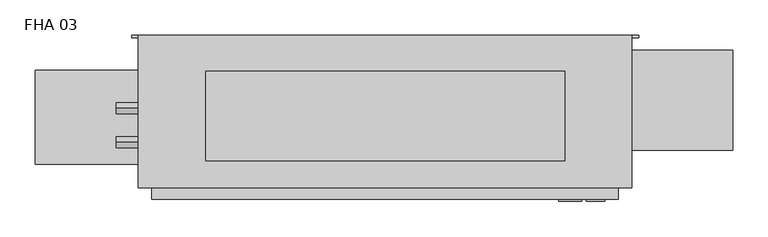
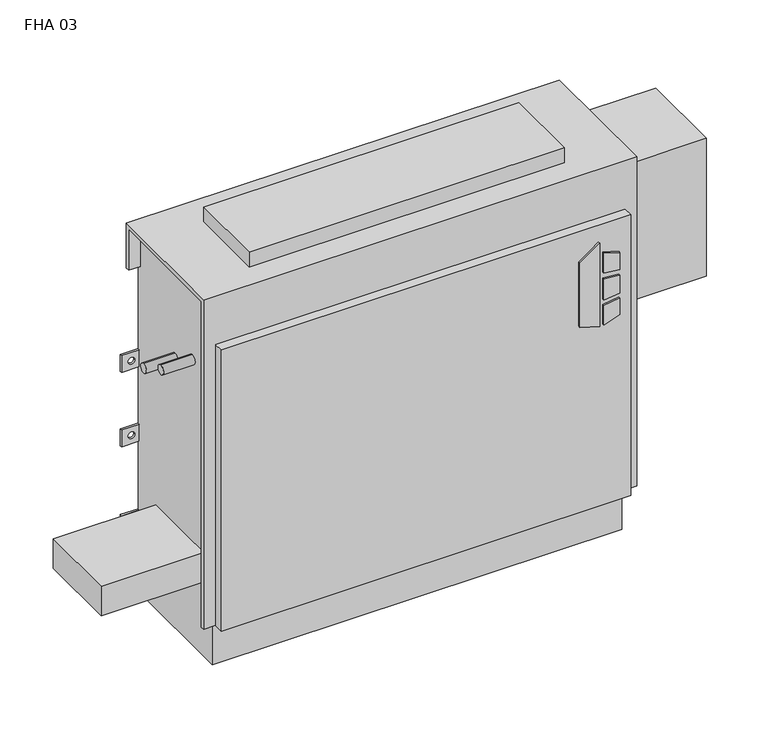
"""IFC4 building model written with IfcOpenShell, lengths in millimetres: proxy geometry, Vertical_Fan_Coil_Unit_-_FHA_-_IEC_-_2-Pipe_TS-FR_LH_2022 : FHA 03."""

from ifc_helpers import new_model, si_unit, point, frame, frame_2d, origin, place, context, project, spatial, polyline, circle_curve, trimmed, segment, composite_curve, outline, extrude, source, transform, mapped, element, save
from ifc_brep_helpers import plane_surface, revolved_surface, advanced_brep


def fha_03_dce14b14(model_context):
    return source(origin(), model_context, "Body", "SolidModel", [
        extrude(outline(polyline([(391.6086829, 398.5368862), (381.6606126, 430.7102728), (523.831537, 430.7102728), (500.8095309, 398.5368862), (391.6086829, 398.5368862)])), frame((0.0, 9.525, 0.0), z_axis=(0.0, 1.0, 0.0), x_axis=(0.0, 0.0, 1.0)), (0.0, 0.0, 1.0), 3.175),
        extrude(outline(polyline([(470.6079683, 437.4686058), (467.4055757, 463.55), (496.6344168, 463.55), (504.6988318, 437.4686058), (470.6079683, 437.4686058)])), frame((0.0, 9.525, 0.0), z_axis=(0.0, 1.0, 0.0), x_axis=(0.0, 0.0, 1.0)), (0.0, 0.0, 1.0), 3.175),
        extrude(outline(polyline([(418.7444414, 463.55), (415.0789404, 437.4686058), (381.6606126, 437.4686058), (390.2948498, 463.55), (418.7444414, 463.55)])), frame((0.0, 9.525, 0.0), z_axis=(0.0, 1.0, 0.0), x_axis=(0.0, 0.0, 1.0)), (0.0, 0.0, 1.0), 3.175),
        extrude(outline(polyline([(458.0596028, 463.55), (460.3414292, 437.4686058), (424.4038806, 437.4686058), (427.1451456, 463.55), (458.0596028, 463.55)])), frame((0.0, 9.525, 0.0), z_axis=(0.0, 1.0, 0.0), x_axis=(0.0, 0.0, 1.0)), (0.0, 0.0, 1.0), 3.175),
        extrude(outline(composite_curve([segment(trimmed(circle_curve(frame_2d((-241.3, 128.5875)), 9.525), [point((-250.825, 128.5875))], [point((-231.775, 128.5875))], False, "CARTESIAN"), True, "CONTINUOUS"), segment(trimmed(circle_curve(frame_2d((-241.3, 128.5875)), 9.525), [point((-231.775, 128.5875))], [point((-250.825, 128.5875))], False, "CARTESIAN"), True, "CONTINUOUS")], self_intersect=False)), frame((0.0, 0.0, 101.6), z_axis=(0.0, 0.0, 1.0), x_axis=(1.0, 0.0, 0.0)), (0.0, 0.0, 1.0), 25.4),
        extrude(outline(polyline([(-342.9, 61.9125), (-342.9, 195.2625), (-177.8, 195.2625), (-177.8, 61.9125), (-342.9, 61.9125)])), frame((0.0, 0.0, 127.0), z_axis=(0.0, 0.0, 1.0), x_axis=(1.0, 0.0, 0.0)), (0.0, 0.0, 1.0), 50.8),
        extrude(outline(polyline([(406.4, 193.675), (406.4, 66.675), (-101.6, 66.675), (-101.6, 193.675), (406.4, 193.675)])), frame((0.0, 0.0, 635.0), z_axis=(0.0, 0.0, 1.0), x_axis=(1.0, 0.0, 0.0)), (0.0, 0.0, 1.0), 25.4),
        extrude(outline(composite_curve([segment(trimmed(circle_curve(frame_2d((93.1926, 488.0102)), 7.9375), [point((93.1926, 495.9477))], [point((93.1926, 480.0727))], False, "CARTESIAN"), True, "CONTINUOUS"), segment(trimmed(circle_curve(frame_2d((93.1926, 488.0102)), 7.9375), [point((93.1926, 480.0727))], [point((93.1926, 495.9477))], False, "CARTESIAN"), True, "CONTINUOUS")], self_intersect=False)), frame((-228.6, 0.0, 0.0), z_axis=(1.0, 0.0, 0.0), x_axis=(0.0, 1.0, 0.0)), (0.0, 0.0, 1.0), 50.8),
        extrude(outline(composite_curve([segment(trimmed(circle_curve(frame_2d((141.3002, 461.3402)), 7.9375), [point((141.3002, 469.2777))], [point((141.3002, 453.4027))], False, "CARTESIAN"), True, "CONTINUOUS"), segment(trimmed(circle_curve(frame_2d((141.3002, 461.3402)), 7.9375), [point((141.3002, 453.4027))], [point((141.3002, 469.2777))], False, "CARTESIAN"), True, "CONTINUOUS")], self_intersect=False)), frame((-228.6, 0.0, 0.0), z_axis=(1.0, 0.0, 0.0), x_axis=(0.0, 1.0, 0.0)), (0.0, 0.0, 1.0), 50.8),
        extrude(outline(polyline([(644.525, 223.266), (644.525, 81.534), (482.6, 81.534), (482.6, 223.266), (644.525, 223.266)])), frame((0.0, 0.0, 349.25), z_axis=(0.0, 0.0, 1.0), x_axis=(1.0, 0.0, 0.0)), (0.0, 0.0, 1.0), 234.95),
        advanced_brep(
        [(501.65, 244.475, 635.0), (-196.85, 244.475, 635.0), (-196.85, 28.575, 635.0), (501.65, 28.575, 635.0), (-177.8, 244.475, 0.0), (482.6, 244.475, 0.0), (482.6, 38.1, 0.0), (-177.8, 38.1, 0.0), (501.65, 244.475, 558.8), (482.6, 244.475, 558.8), (482.6, 244.475, 414.3375), (511.175, 244.475, 414.3375), (511.175, 244.475, 385.7625), (482.6, 244.475, 385.7625), (482.6, 244.475, 287.3375), (511.175, 244.475, 287.3375), (511.175, 244.475, 258.7625), (482.6, 244.475, 258.7625), (482.6, 244.475, 141.2875), (511.175, 244.475, 141.2875), (511.175, 244.475, 112.7125), (482.6, 244.475, 112.7125), (-177.8, 244.475, 112.7125), (-206.375, 244.475, 112.7125), (-206.375, 244.475, 141.2875), (-177.8, 244.475, 141.2875), (-177.8, 244.475, 258.7625), (-206.375, 244.475, 258.7625), (-206.375, 244.475, 287.3375), (-177.8, 244.475, 287.3375), (-177.8, 244.475, 385.7625), (-206.375, 244.475, 385.7625), (-206.375, 244.475, 414.3375), (-177.8, 244.475, 414.3375), (-177.8, 244.475, 558.8), (-196.85, 244.475, 558.8), (500.8626, 244.475, 127.0), (489.7374, 244.475, 127.0), (-184.9374, 244.475, 127.0), (-196.0626, 244.475, 127.0), (500.8626, 244.475, 273.05), (489.7374, 244.475, 273.05), (-184.9374, 244.475, 273.05), (-196.0626, 244.475, 273.05), (500.8626, 244.475, 400.05), (489.7374, 244.475, 400.05), (-184.9374, 244.475, 400.05), (-196.0626, 244.475, 400.05), (-196.85, 238.125, 558.8), (-196.85, 238.125, 628.65), (-196.85, 34.925, 628.65), (-196.85, 34.925, 73.025), (-196.85, 28.575, 73.025), (482.6, 12.7, 552.45), (-177.8, 12.7, 552.45), (-177.8, 12.7, 73.025), (482.6, 12.7, 73.025), (501.65, 28.575, 73.025), (501.65, 34.925, 73.025), (501.65, 34.925, 628.65), (501.65, 238.125, 628.65), (501.65, 238.125, 558.8), (-177.8, 28.575, 73.025), (-177.8, 28.575, 552.45), (482.6, 28.575, 552.45), (482.6, 28.575, 73.025), (-177.8, 34.925, 73.025), (-177.8, 38.1, 73.025), (482.6, 38.1, 73.025), (482.6, 34.925, 73.025), (482.6, 241.3, 112.7125), (482.6, 241.3, 141.2875), (482.6, 241.3, 258.7625), (482.6, 241.3, 287.3375), (482.6, 241.3, 385.7625), (482.6, 241.3, 414.3375), (482.6, 238.125, 558.8), (482.6, 238.125, 628.65), (482.6, 34.925, 628.65), (-177.8, 34.925, 628.65), (-177.8, 238.125, 628.65), (-177.8, 238.125, 558.8), (-177.8, 241.3, 414.3375), (-177.8, 241.3, 385.7625), (-177.8, 241.3, 287.3375), (-177.8, 241.3, 258.7625), (-177.8, 241.3, 141.2875), (-177.8, 241.3, 112.7125), (511.175, 241.3, 112.7125), (511.175, 241.3, 141.2875), (489.7374, 241.3, 127.0), (500.8626, 241.3, 127.0), (511.175, 241.3, 258.7625), (511.175, 241.3, 287.3375), (489.7374, 241.3, 273.05), (500.8626, 241.3, 273.05), (511.175, 241.3, 385.7625), (511.175, 241.3, 414.3375), (489.7374, 241.3, 400.05), (500.8626, 241.3, 400.05), (-206.375, 241.3, 141.2875), (-206.375, 241.3, 112.7125), (-196.0626, 241.3, 127.0), (-184.9374, 241.3, 127.0), (-206.375, 241.3, 287.3375), (-206.375, 241.3, 258.7625), (-196.0626, 241.3, 273.05), (-184.9374, 241.3, 273.05), (-206.375, 241.3, 414.3375), (-206.375, 241.3, 385.7625), (-196.0626, 241.3, 400.05), (-184.9374, 241.3, 400.05)],
        [
            (0, 1),
            (1, 2),
            (2, 3),
            (3, 0),
            (4, 5),
            (5, 6),
            (6, 7),
            (7, 4),
            (0, 8),
            (8, 9),
            (9, 10),
            (10, 11),
            (11, 12),
            (12, 13),
            (13, 14),
            (14, 15),
            (15, 16),
            (16, 17),
            (17, 18),
            (18, 19),
            (19, 20),
            (20, 21),
            (21, 5),
            (4, 22),
            (22, 23),
            (23, 24),
            (24, 25),
            (25, 26),
            (26, 27),
            (27, 28),
            (28, 29),
            (29, 30),
            (30, 31),
            (31, 32),
            (32, 33),
            (33, 34),
            (34, 35),
            (35, 1),
            (36, 37, circle_curve(frame((495.3, 244.475, 127.0), z_axis=(0.0, -1.0, 0.0), x_axis=(-1.0, 0.0, 0.0)), 5.5626)),
            (37, 36, circle_curve(frame((495.3, 244.475, 127.0), z_axis=(0.0, -1.0, 0.0), x_axis=(-1.0, 0.0, 0.0)), 5.5626)),
            (38, 39, circle_curve(frame((-190.5, 244.475, 127.0), z_axis=(0.0, -1.0, 0.0), x_axis=(-1.0, 0.0, 0.0)), 5.5626)),
            (39, 38, circle_curve(frame((-190.5, 244.475, 127.0), z_axis=(0.0, -1.0, 0.0), x_axis=(-1.0, 0.0, 0.0)), 5.5626)),
            (40, 41, circle_curve(frame((495.3, 244.475, 273.05), z_axis=(0.0, -1.0, 0.0), x_axis=(-1.0, 0.0, 0.0)), 5.5626)),
            (41, 40, circle_curve(frame((495.3, 244.475, 273.05), z_axis=(0.0, -1.0, 0.0), x_axis=(-1.0, 0.0, 0.0)), 5.5626)),
            (42, 43, circle_curve(frame((-190.5, 244.475, 273.05), z_axis=(0.0, -1.0, 0.0), x_axis=(-1.0, 0.0, 0.0)), 5.5626)),
            (43, 42, circle_curve(frame((-190.5, 244.475, 273.05), z_axis=(0.0, -1.0, 0.0), x_axis=(-1.0, 0.0, 0.0)), 5.5626)),
            (44, 45, circle_curve(frame((495.3, 244.475, 400.05), z_axis=(0.0, -1.0, 0.0), x_axis=(-1.0, 0.0, 0.0)), 5.5626)),
            (45, 44, circle_curve(frame((495.3, 244.475, 400.05), z_axis=(0.0, -1.0, 0.0), x_axis=(-1.0, 0.0, 0.0)), 5.5626)),
            (46, 47, circle_curve(frame((-190.5, 244.475, 400.05), z_axis=(0.0, -1.0, 0.0), x_axis=(-1.0, 0.0, 0.0)), 5.5626)),
            (47, 46, circle_curve(frame((-190.5, 244.475, 400.05), z_axis=(0.0, -1.0, 0.0), x_axis=(-1.0, 0.0, 0.0)), 5.5626)),
            (35, 48),
            (48, 49),
            (49, 50),
            (50, 51),
            (51, 52),
            (52, 2),
            (53, 54),
            (54, 55),
            (55, 56),
            (56, 53),
            (3, 57),
            (57, 58),
            (58, 59),
            (59, 60),
            (60, 61),
            (61, 8),
            (52, 62),
            (62, 63),
            (63, 64),
            (64, 65),
            (65, 57),
            (53, 64),
            (63, 54),
            (55, 62),
            (51, 66),
            (66, 67),
            (67, 68),
            (68, 69),
            (69, 58),
            (65, 56),
            (6, 68),
            (67, 7),
            (21, 70),
            (70, 71),
            (71, 18),
            (17, 72),
            (72, 73),
            (73, 14),
            (13, 74),
            (74, 75),
            (75, 10),
            (9, 76),
            (76, 77),
            (77, 78),
            (78, 69),
            (66, 79),
            (79, 80),
            (80, 81),
            (81, 34),
            (33, 82),
            (82, 83),
            (83, 30),
            (29, 84),
            (84, 85),
            (85, 26),
            (25, 86),
            (86, 87),
            (87, 22),
            (76, 61),
            (60, 77),
            (78, 59),
            (50, 79),
            (81, 48),
            (80, 49),
            (70, 88),
            (88, 89),
            (89, 71),
            (90, 91, circle_curve(frame((495.3, 241.3, 127.0), z_axis=(0.0, 1.0, 0.0), x_axis=(-1.0, 0.0, 0.0)), 5.5626)),
            (91, 90, circle_curve(frame((495.3, 241.3, 127.0), z_axis=(0.0, 1.0, 0.0), x_axis=(-1.0, 0.0, 0.0)), 5.5626)),
            (92, 93),
            (93, 73),
            (72, 92),
            (94, 95, circle_curve(frame((495.3, 241.3, 273.05), z_axis=(0.0, 1.0, 0.0), x_axis=(-1.0, 0.0, 0.0)), 5.5626)),
            (95, 94, circle_curve(frame((495.3, 241.3, 273.05), z_axis=(0.0, 1.0, 0.0), x_axis=(-1.0, 0.0, 0.0)), 5.5626)),
            (96, 97),
            (97, 75),
            (74, 96),
            (98, 99, circle_curve(frame((495.3, 241.3, 400.05), z_axis=(0.0, 1.0, 0.0), x_axis=(-1.0, 0.0, 0.0)), 5.5626)),
            (99, 98, circle_curve(frame((495.3, 241.3, 400.05), z_axis=(0.0, 1.0, 0.0), x_axis=(-1.0, 0.0, 0.0)), 5.5626)),
            (100, 101),
            (101, 87),
            (86, 100),
            (102, 103, circle_curve(frame((-190.5, 241.3, 127.0), z_axis=(0.0, 1.0, 0.0), x_axis=(-1.0, 0.0, 0.0)), 5.5626)),
            (103, 102, circle_curve(frame((-190.5, 241.3, 127.0), z_axis=(0.0, 1.0, 0.0), x_axis=(-1.0, 0.0, 0.0)), 5.5626)),
            (84, 104),
            (104, 105),
            (105, 85),
            (106, 107, circle_curve(frame((-190.5, 241.3, 273.05), z_axis=(0.0, 1.0, 0.0), x_axis=(-1.0, 0.0, 0.0)), 5.5626)),
            (107, 106, circle_curve(frame((-190.5, 241.3, 273.05), z_axis=(0.0, 1.0, 0.0), x_axis=(-1.0, 0.0, 0.0)), 5.5626)),
            (108, 109),
            (109, 83),
            (82, 108),
            (110, 111, circle_curve(frame((-190.5, 241.3, 400.05), z_axis=(0.0, 1.0, 0.0), x_axis=(-1.0, 0.0, 0.0)), 5.5626)),
            (111, 110, circle_curve(frame((-190.5, 241.3, 400.05), z_axis=(0.0, 1.0, 0.0), x_axis=(-1.0, 0.0, 0.0)), 5.5626)),
            (89, 19),
            (88, 20),
            (16, 92),
            (93, 15),
            (12, 96),
            (97, 11),
            (24, 100),
            (101, 23),
            (105, 27),
            (104, 28),
            (32, 108),
            (109, 31),
            (90, 37),
            (36, 91),
            (102, 39),
            (38, 103),
            (94, 41),
            (40, 95),
            (106, 43),
            (42, 107),
            (98, 45),
            (44, 99),
            (110, 47),
            (46, 111),
        ],
        [
            plane_surface(frame((-196.85, 244.475, 635.0), z_axis=(0.0, 0.0, 1.0), x_axis=(-1.0, 0.0, 0.0))),
            plane_surface(frame((-196.85, 244.475, 0.0), z_axis=(0.0, 0.0, -1.0), x_axis=(1.0, 0.0, 0.0))),
            plane_surface(frame((501.65, 244.475, 635.0), z_axis=(0.0, 1.0, 0.0), x_axis=(0.0, 0.0, -1.0))),
            plane_surface(frame((-196.85, 244.475, 635.0), z_axis=(-1.0, 0.0, 0.0), x_axis=(0.0, 0.0, -1.0))),
            plane_surface(frame((-196.85, 12.7, 635.0), z_axis=(0.0, -1.0, 0.0), x_axis=(0.0, 0.0, -1.0))),
            plane_surface(frame((501.65, 12.7, 635.0), z_axis=(1.0, 0.0, 0.0), x_axis=(0.0, 0.0, -1.0))),
            plane_surface(frame((-247.65, 28.575, 635.0), z_axis=(0.0, -1.0, 0.0), x_axis=(1.0, 0.0, 0.0))),
            plane_surface(frame((-247.65, 28.575, 552.45), z_axis=(0.0, 0.0, 1.0), x_axis=(1.0, 0.0, 0.0))),
            plane_surface(frame((-196.85, 12.7, 73.025), z_axis=(0.0, 0.0, -1.0), x_axis=(1.0, 0.0, 0.0))),
            plane_surface(frame((-196.85, 38.1, 73.025), z_axis=(0.0, -1.0, 0.0), x_axis=(1.0, 0.0, 0.0))),
            plane_surface(frame((482.6, 28.575, 73.025), z_axis=(1.0, 0.0, 0.0), x_axis=(0.0, -1.0, 0.0))),
            plane_surface(frame((-177.8, 28.575, 552.45), z_axis=(-1.0, 0.0, 0.0), x_axis=(0.0, -1.0, 0.0))),
            plane_surface(frame((482.6, 244.475, 0.0), z_axis=(1.0, 0.0, 0.0), x_axis=(0.0, -1.0, 0.0))),
            plane_surface(frame((-177.8, 244.475, 73.025), z_axis=(-1.0, 0.0, 0.0), x_axis=(0.0, -1.0, 0.0))),
            plane_surface(frame((482.6, 238.125, 628.65), z_axis=(0.0, -1.0, 0.0), x_axis=(1.0, 0.0, 0.0))),
            plane_surface(frame((482.6, 238.125, 558.8), z_axis=(0.0, 0.0, -1.0), x_axis=(1.0, 0.0, 0.0))),
            plane_surface(frame((482.6, 34.925, 73.025), z_axis=(0.0, 1.0, 0.0), x_axis=(1.0, 0.0, 0.0))),
            plane_surface(frame((482.6, 34.925, 628.65), z_axis=(0.0, 0.0, -1.0), x_axis=(1.0, 0.0, 0.0))),
            plane_surface(frame((-177.8, 34.925, 628.65), z_axis=(0.0, 1.0, 0.0), x_axis=(-1.0, 0.0, 0.0))),
            plane_surface(frame((-177.8, 244.475, 558.8), z_axis=(0.0, 0.0, -1.0), x_axis=(-1.0, 0.0, 0.0))),
            plane_surface(frame((-177.8, 238.125, 558.8), z_axis=(0.0, -1.0, 0.0), x_axis=(-1.0, 0.0, 0.0))),
            plane_surface(frame((-177.8, 238.125, 628.65), z_axis=(0.0, 0.0, -1.0), x_axis=(-1.0, 0.0, 0.0))),
            plane_surface(frame((511.175, 241.3, 141.2875), z_axis=(0.0, -1.0, 0.0), x_axis=(-1.0, 0.0, 0.0))),
            plane_surface(frame((482.6, 244.475, 141.2875), z_axis=(0.0, 0.0, 1.0), x_axis=(0.0, -1.0, 0.0))),
            plane_surface(frame((511.175, 244.475, 141.2875), z_axis=(1.0, 0.0, 0.0), x_axis=(0.0, -1.0, 0.0))),
            plane_surface(frame((511.175, 244.475, 112.7125), z_axis=(0.0, 0.0, -1.0), x_axis=(0.0, -1.0, 0.0))),
            plane_surface(frame((511.175, 244.475, 258.7625), z_axis=(0.0, 0.0, -1.0), x_axis=(0.0, -1.0, 0.0))),
            plane_surface(frame((482.6, 244.475, 287.3375), z_axis=(0.0, 0.0, 1.0), x_axis=(0.0, -1.0, 0.0))),
            plane_surface(frame((511.175, 244.475, 287.3375), z_axis=(1.0, 0.0, 0.0), x_axis=(0.0, -1.0, 0.0))),
            plane_surface(frame((511.175, 244.475, 385.7625), z_axis=(0.0, 0.0, -1.0), x_axis=(0.0, -1.0, 0.0))),
            plane_surface(frame((482.6, 244.475, 414.3375), z_axis=(0.0, 0.0, 1.0), x_axis=(0.0, -1.0, 0.0))),
            plane_surface(frame((511.175, 244.475, 414.3375), z_axis=(1.0, 0.0, 0.0), x_axis=(0.0, -1.0, 0.0))),
            plane_surface(frame((-206.375, 244.475, 141.2875), z_axis=(0.0, 0.0, 1.0), x_axis=(0.0, -1.0, 0.0))),
            plane_surface(frame((-177.8, 244.475, 112.7125), z_axis=(0.0, 0.0, -1.0), x_axis=(0.0, -1.0, 0.0))),
            plane_surface(frame((-206.375, 244.475, 112.7125), z_axis=(-1.0, 0.0, 0.0), x_axis=(0.0, -1.0, 0.0))),
            plane_surface(frame((-177.8, 244.475, 258.7625), z_axis=(0.0, 0.0, -1.0), x_axis=(0.0, -1.0, 0.0))),
            plane_surface(frame((-206.375, 244.475, 258.7625), z_axis=(-1.0, 0.0, 0.0), x_axis=(0.0, -1.0, 0.0))),
            plane_surface(frame((-206.375, 244.475, 287.3375), z_axis=(0.0, 0.0, 1.0), x_axis=(0.0, -1.0, 0.0))),
            plane_surface(frame((-206.375, 244.475, 414.3375), z_axis=(0.0, 0.0, 1.0), x_axis=(0.0, -1.0, 0.0))),
            plane_surface(frame((-177.8, 244.475, 385.7625), z_axis=(0.0, 0.0, -1.0), x_axis=(0.0, -1.0, 0.0))),
            plane_surface(frame((-206.375, 244.475, 385.7625), z_axis=(-1.0, 0.0, 0.0), x_axis=(0.0, -1.0, 0.0))),
            revolved_surface(polyline([(489.73740000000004, 241.3, 127.0), (489.73740000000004, 244.475, 127.0)]), (495.3, 244.475, 127.0), (0.0, -1.0, 0.0)),
            revolved_surface(polyline([(-196.0626, 241.3, 127.0), (-196.0626, 244.475, 127.0)]), (-190.5, 244.475, 127.0), (0.0, -1.0, 0.0)),
            revolved_surface(polyline([(489.73740000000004, 241.3, 273.05), (489.73740000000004, 244.475, 273.05)]), (495.3, 244.475, 273.05), (0.0, -1.0, 0.0)),
            revolved_surface(polyline([(-196.0626, 241.3, 273.05), (-196.0626, 244.475, 273.05)]), (-190.5, 244.475, 273.05), (0.0, -1.0, 0.0)),
            revolved_surface(polyline([(489.73740000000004, 241.3, 400.05), (489.73740000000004, 244.475, 400.05)]), (495.3, 244.475, 400.05), (0.0, -1.0, 0.0)),
            revolved_surface(polyline([(-196.0626, 241.3, 400.05), (-196.0626, 244.475, 400.05)]), (-190.5, 244.475, 400.05), (0.0, -1.0, 0.0)),
        ],
        [
            (0, [[1, 2, 3, 4]]),
            (1, [[5, 6, 7, 8]]),
            (2, [[-1, 9, 10, 11, 12, 13, 14, 15, 16, 17, 18, 19, 20, 21, 22, 23, -5, 24, 25, 26, 27, 28, 29, 30, 31, 32, 33, 34, 35, 36, 37, 38], [39, 40], [41, 42], [43, 44], [45, 46], [47, 48], [49, 50]]),
            (3, [[-2, -38, 51, 52, 53, 54, 55, 56]]),
            (4, [[57, 58, 59, 60]]),
            (5, [[-4, 61, 62, 63, 64, 65, 66, -9]]),
            (6, [[-3, -56, 67, 68, 69, 70, 71, -61]]),
            (7, [[-57, 72, -69, 73]]),
            (8, [[-59, 74, -67, -55, 75, 76, 77, 78, 79, -62, -71, 80]]),
            (9, [[-7, 81, -77, 82]]),
            (10, [[-70, -72, -60, -80]]),
            (11, [[-68, -74, -58, -73]]),
            (12, [[-6, -23, 83, 84, 85, -19, 86, 87, 88, -15, 89, 90, 91, -11, 92, 93, 94, 95, -78, -81]]),
            (13, [[-8, -82, -76, 96, 97, 98, 99, -36, 100, 101, 102, -32, 103, 104, 105, -28, 106, 107, 108, -24]]),
            (14, [[-93, 109, -65, 110]]),
            (15, [[-92, -10, -66, -109]]),
            (16, [[-95, 111, -63, -79]]),
            (17, [[-94, -110, -64, -111]]),
            (18, [[-96, -75, -54, 112]]),
            (19, [[-99, 113, -51, -37]]),
            (20, [[-98, 114, -52, -113]]),
            (21, [[-97, -112, -53, -114]]),
            (22, [[115, 116, 117, -84], [118, 119]]),
            (22, [[120, 121, -87, 122], [123, 124]]),
            (22, [[125, 126, -90, 127], [128, 129]]),
            (22, [[130, 131, -107, 132], [133, 134]]),
            (22, [[135, 136, 137, -104], [138, 139]]),
            (22, [[140, 141, -101, 142], [143, 144]]),
            (23, [[-117, 145, -20, -85]]),
            (24, [[-116, 146, -21, -145]]),
            (25, [[-115, -83, -22, -146]]),
            (26, [[-122, -86, -18, 147]]),
            (27, [[-121, 148, -16, -88]]),
            (28, [[-120, -147, -17, -148]]),
            (29, [[-127, -89, -14, 149]]),
            (30, [[-126, 150, -12, -91]]),
            (31, [[-125, -149, -13, -150]]),
            (32, [[-132, -106, -27, 151]]),
            (33, [[-131, 152, -25, -108]]),
            (34, [[-130, -151, -26, -152]]),
            (35, [[-137, 153, -29, -105]]),
            (36, [[-136, 154, -30, -153]]),
            (37, [[-135, -103, -31, -154]]),
            (38, [[-142, -100, -35, 155]]),
            (39, [[-141, 156, -33, -102]]),
            (40, [[-140, -155, -34, -156]]),
            (41, [[157, -39, 158, -118]]),
            (41, [[-157, -119, -158, -40]]),
            (42, [[159, -41, 160, -133]]),
            (42, [[-159, -134, -160, -42]]),
            (43, [[161, -43, 162, -123]]),
            (43, [[-161, -124, -162, -44]]),
            (44, [[163, -45, 164, -138]]),
            (44, [[-163, -139, -164, -46]]),
            (45, [[165, -47, 166, -128]]),
            (45, [[-165, -129, -166, -48]]),
            (46, [[167, -49, 168, -143]]),
            (46, [[-167, -144, -168, -50]]),
        ],
    ),
    ])


if __name__ == "__main__":
    model = new_model("IFC4")
    model_context = context("Model", 3, world=origin())
    ifc_project = project(units=[si_unit("LENGTHUNIT", "METRE", prefix="MILLI")], contexts=[model_context])
    site = spatial("IfcSite", under=ifc_project)
    building = spatial("IfcBuilding", under=site)
    placement = place(None, origin())
    fha_03_shape = fha_03_dce14b14(model_context)
    element("IfcBuildingElementProxy", 1, Name="Vertical_Fan_Coil_Unit_-_FHA_-_IEC_-_2-Pipe_TS-FR_LH_2022 : FHA 03", ObjectType="Vertical_Fan_Coil_Unit_-_FHA_-_IEC_-_2-Pipe_TS-FR_LH_2022 : FHA 03", at=placement, inside=building, context=model_context, shape_type="MappedRepresentation", body=[
        mapped(fha_03_shape, transform((0.0, 0.0, 0.0), x_axis=(1.0, 0.0, 0.0), y_axis=(0.0, 1.0, 0.0), z_axis=(0.0, 0.0, 1.0))),
    ])
    save(model, "model.ifc")
